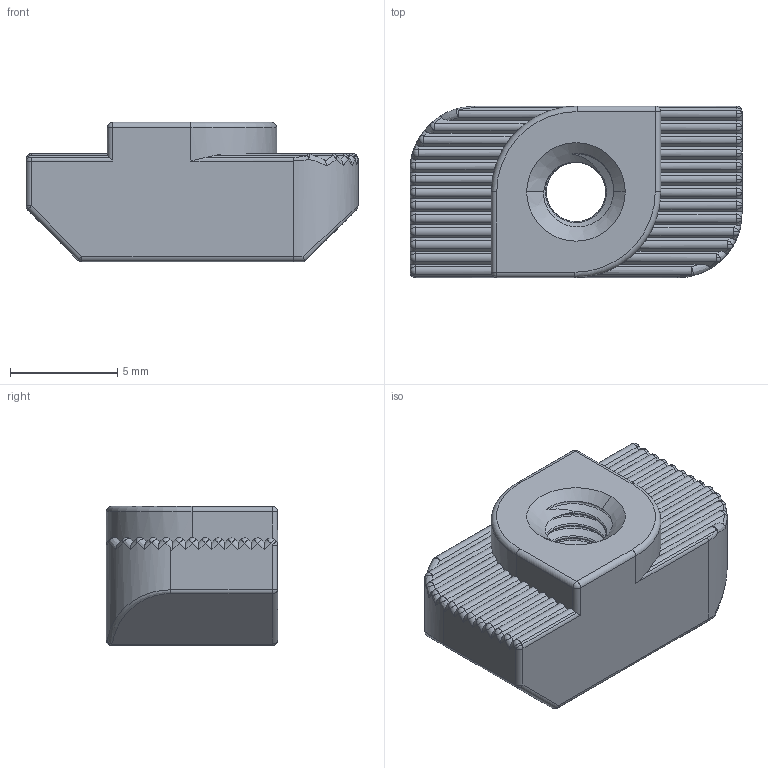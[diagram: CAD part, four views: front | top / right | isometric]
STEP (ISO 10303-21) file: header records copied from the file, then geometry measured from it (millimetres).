
FILE_DESCRIPTION (( 'STEP AP203' ), '1' );
FILE_NAME ('5004.STEP', '2016-01-20T16:03:32', ( '' ), ( '' ), 'SwSTEP 2.0', 'SolidWorks 2014', '' );
FILE_SCHEMA (( 'CONFIG_CONTROL_DESIGN' ));
Length unit declared in the file: millimetre
Products named in the file (1): 5004
Bounding box: 15.5 x 8 x 6.5 mm (x, y, z)
Volume: 583.4 mm3; surface area: 562.1 mm2
Topology: 1 solids, 1 shells, 224 faces, 537 edges, 308 vertices
Faces by surface type: cylinder 82, plane 62, sphere 47, bspline 27, torus 4, cone 2
Entity records: 9582 total; most frequent: CARTESIAN_POINT 4772, ORIENTED_EDGE 1060, DIRECTION 944, EDGE_CURVE 530, AXIS2_PLACEMENT_3D 365, VERTEX_POINT 308, EDGE_LOOP 226, ADVANCED_FACE 224
